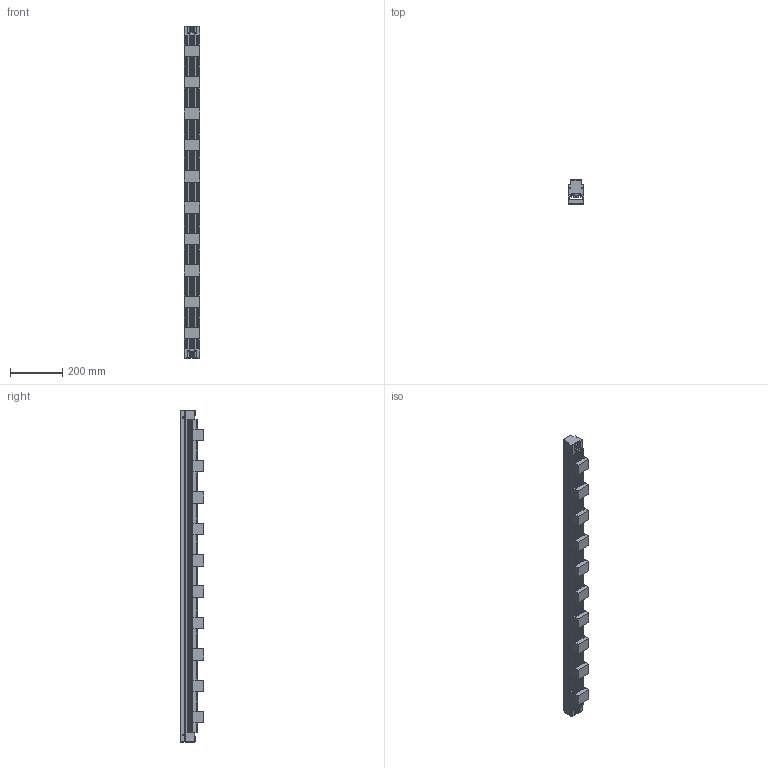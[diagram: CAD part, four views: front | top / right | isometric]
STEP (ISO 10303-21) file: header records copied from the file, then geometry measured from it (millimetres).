
FILE_DESCRIPTION((''),'2;1');
FILE_NAME('MV-LTHS-1200-W','2019-09-19T',('win7'),(''),'PRO/ENGINEER BY PARAMETRIC TECHNOLOGY CORPORATION, 2010100','PRO/ENGINEER BY PARAMETRIC TECHNOLOGY CORPORATION, 2010100','');
FILE_SCHEMA(('CONFIG_CONTROL_DESIGN'));
Length unit declared in the file: millimetre
Products named in the file (1): MV-LTHS-1200-W
Bounding box: 58 x 90.1 x 1270 mm (x, y, z)
Volume: 4160793.7 mm3; surface area: 671314.7 mm2
Topology: 1 solids, 10 shells, 479 faces, 1274 edges, 793 vertices
Faces by surface type: plane 344, cylinder 105, cone 30
Entity records: 14507 total; most frequent: CARTESIAN_POINT 2531, ORIENTED_EDGE 2456, DIRECTION 2446, EDGE_CURVE 1248, VECTOR 1008, LINE 1008, VERTEX_POINT 793, AXIS2_PLACEMENT_3D 719
